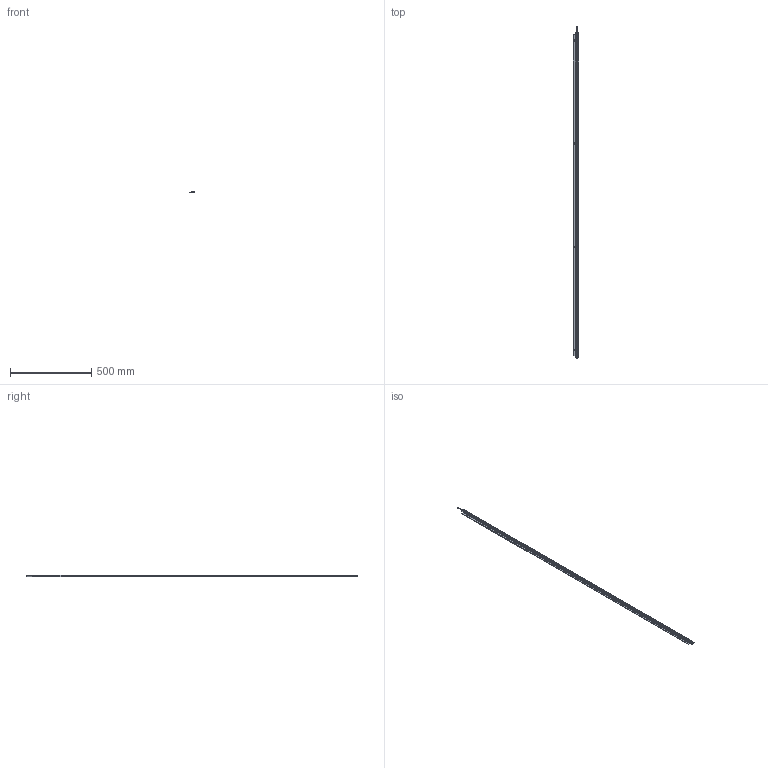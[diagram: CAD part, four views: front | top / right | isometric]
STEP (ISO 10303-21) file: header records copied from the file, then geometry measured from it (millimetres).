
FILE_DESCRIPTION (( 'STEP AP214' ), '1' );
FILE_NAME ('ILGA-L-K1-2000mm.STEP', '2026-04-24T23:07:46', ( '' ), ( '' ), 'SwSTEP 2.0', 'SolidWorks 2025', '' );
FILE_SCHEMA (( 'AUTOMOTIVE_DESIGN' ));
Length unit declared in the file: millimetre
Products named in the file (1): ILGA-L-K1-2000mm
Bounding box: 35 x 2040 x 10.7 mm (x, y, z)
Volume: 207496.4 mm3; surface area: 307910.6 mm2
Topology: 9 solids, 9 shells, 680 faces, 1768 edges, 1080 vertices
Faces by surface type: plane 293, cylinder 245, cone 60, torus 42, bspline 24, sphere 16
Entity records: 28575 total; most frequent: CARTESIAN_POINT 4429, DIRECTION 3606, ORIENTED_EDGE 3448, EDGE_CURVE 1724, AXIS2_PLACEMENT_3D 1345, VERTEX_POINT 1080, VECTOR 916, LINE 916
